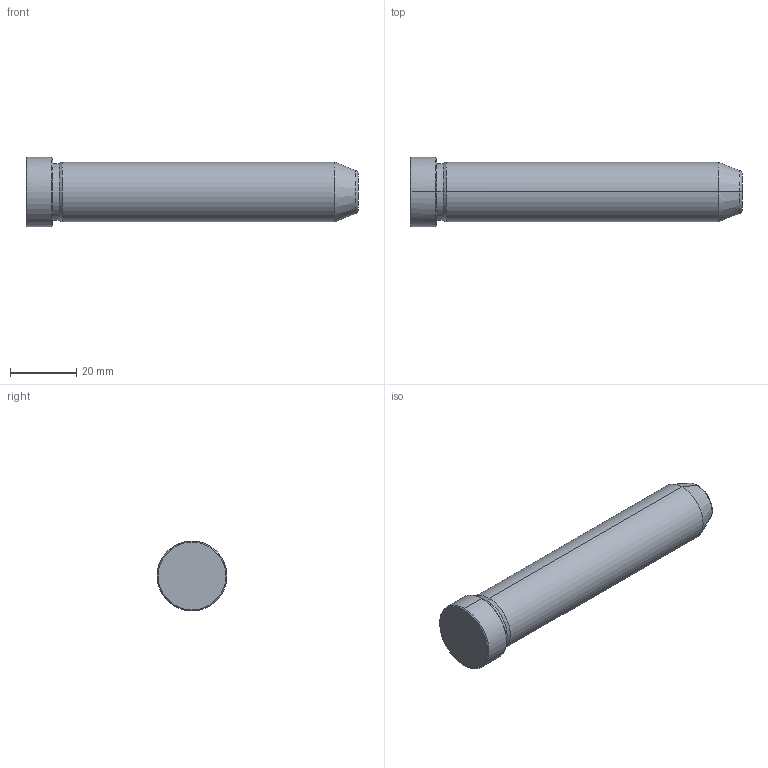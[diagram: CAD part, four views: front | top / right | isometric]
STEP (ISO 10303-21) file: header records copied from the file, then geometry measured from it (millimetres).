
FILE_DESCRIPTION(('CATIA V5 STEP Exchange'),'2;1');
FILE_NAME('C:\Users\Utente\Desktop\IO LAVORO\3D X SITO CF\X SITO\PLASTICA\549\549-18X100.stp','2021-12-11T09:42:58+00:00',('none'),('none'),'CATIA Version 5 Release 20 GA (IN-10)','CATIA V5 STEP AP203','none');
FILE_SCHEMA(('CONFIG_CONTROL_DESIGN'));
Length unit declared in the file: millimetre
Products named in the file (1): 549-18X100
Bounding box: 100 x 21 x 21 mm (x, y, z)
Volume: 25604.9 mm3; surface area: 6249.5 mm2
Topology: 1 solids, 1 shells, 19 faces, 56 edges, 40 vertices
Faces by surface type: cone 8, cylinder 6, plane 3, torus 2
Entity records: 736 total; most frequent: CARTESIAN_POINT 192, ORIENTED_EDGE 112, DIRECTION 86, EDGE_CURVE 56, AXIS2_PLACEMENT_3D 54, VERTEX_POINT 40, CIRCLE 34, EDGE_LOOP 20
